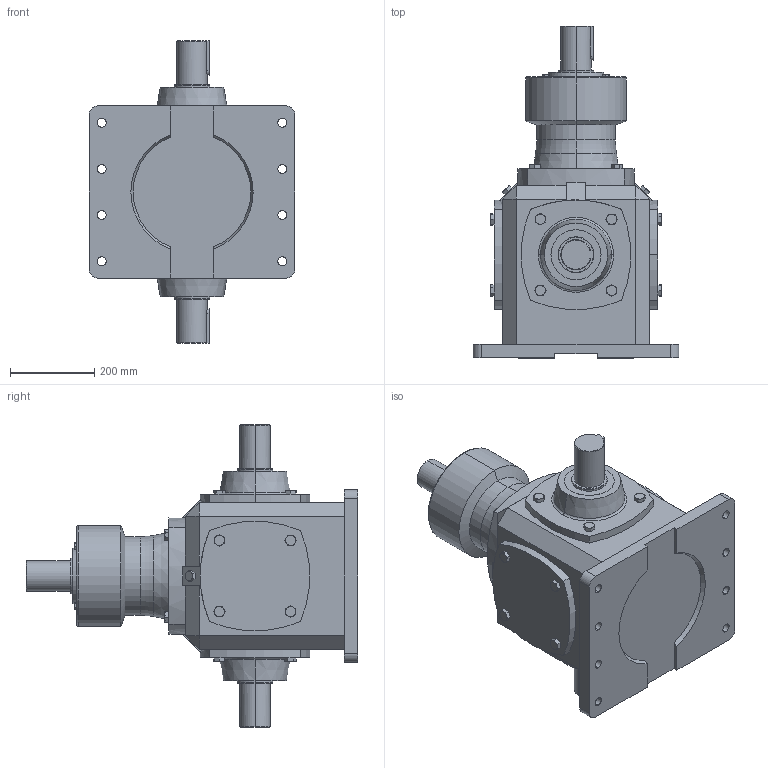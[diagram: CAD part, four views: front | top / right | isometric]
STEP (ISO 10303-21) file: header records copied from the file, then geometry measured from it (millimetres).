
FILE_DESCRIPTION (( 'STEP AP203' ), '1' );
FILE_NAME ('TC20-1-WS1-V2.step', '2018-07-13T06:23:16', ( 'IT Division' ), ( 'IT' ), 'SwSTEP 2.0', 'SolidWorks 2016', '' );
FILE_SCHEMA (( 'CONFIG_CONTROL_DESIGN' ));
Length unit declared in the file: millimetre
Products named in the file (1): TC20-1-WS1-V2
Bounding box: 490 x 790 x 720 mm (x, y, z)
Volume: 70092672.8 mm3; surface area: 1614631.7 mm2
Topology: 2 solids, 2 shells, 537 faces, 1273 edges, 778 vertices
Faces by surface type: plane 257, cone 201, cylinder 71, torus 8
Entity records: 16791 total; most frequent: CARTESIAN_POINT 4736, ORIENTED_EDGE 2546, DIRECTION 2381, EDGE_CURVE 1273, AXIS2_PLACEMENT_3D 907, VERTEX_POINT 778, EDGE_LOOP 591, VECTOR 567
